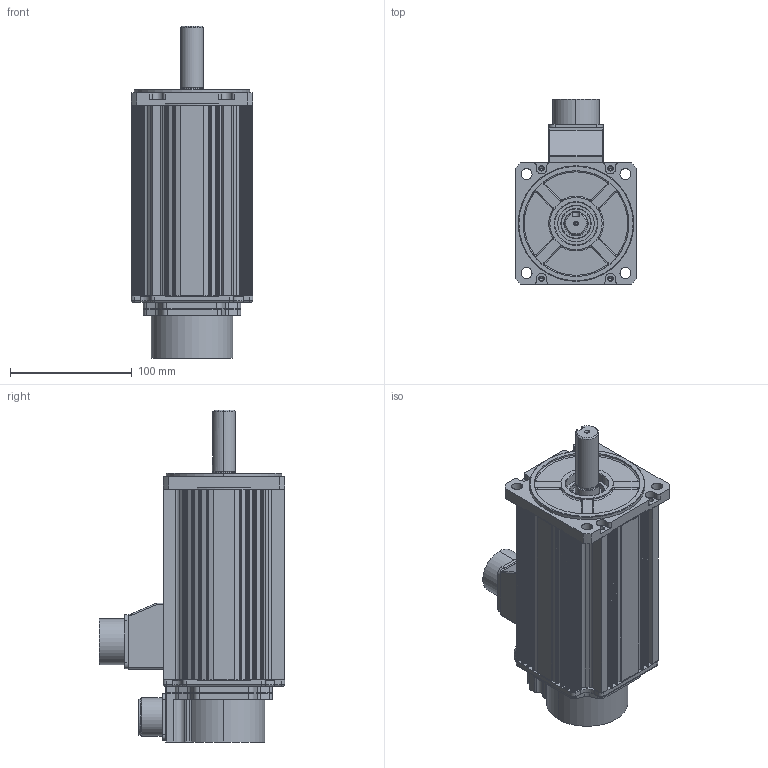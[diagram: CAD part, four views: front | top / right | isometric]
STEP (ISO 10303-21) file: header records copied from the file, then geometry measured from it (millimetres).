
FILE_DESCRIPTION (( 'STEP AP214' ), '1' );
FILE_NAME ('KANS-15D¡à2B2.STEP', '2026-09-12T01:26:09', ( '' ), ( '' ), 'SwSTEP 2.0', 'SolidWorks 2023', '' );
FILE_SCHEMA (( 'AUTOMOTIVE_DESIGN' ));
Length unit declared in the file: millimetre
Products named in the file (10): MS3102A 20-29P; □100 FLANGE; Ø19-KEY6X42; 10060024(ENCODER COVER ADAPTOR,□100,□120); KANS-15D□2B2; □100 BRACKET_BR; MS3102A 24_표준; 10050908 CONNECTOR BOX_MS22 or MS24; □100-157mm; 1006002202 ENCODER COVER
Assembly tree (9 placements, depth 2):
  KANS-15D□2B2
    □100-157mm
    □100 FLANGE
    □100 BRACKET_BR
    10060024(ENCODER COVER ADAPTOR,□100,□120)
    1006002202 ENCODER COVER
    MS3102A 20-29P
    Ø19-KEY6X42
    10050908 CONNECTOR BOX_MS22 or MS24
    MS3102A 24_표준
Bounding box: 100 x 152.42 x 273 mm (x, y, z)
Volume: 497105.5 mm3; surface area: 284267.8 mm2
Topology: 9 solids, 9 shells, 1757 faces, 4844 edges, 3130 vertices
Faces by surface type: cylinder 778, plane 774, torus 74, cone 64, bspline 35, sphere 32
Entity records: 57709 total; most frequent: CARTESIAN_POINT 11539, DIRECTION 9945, ORIENTED_EDGE 9572, EDGE_CURVE 4786, AXIS2_PLACEMENT_3D 3562, VERTEX_POINT 3122, LINE 2821, VECTOR 2821
